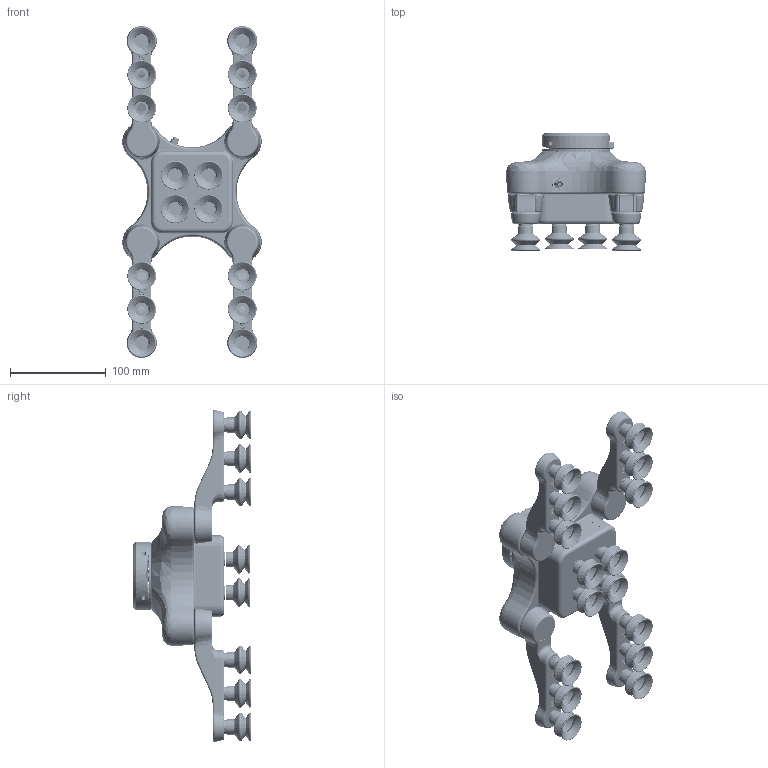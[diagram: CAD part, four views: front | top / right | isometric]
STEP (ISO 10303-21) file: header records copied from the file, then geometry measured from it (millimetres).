
FILE_DESCRIPTION (( 'STEP AP214' ), '1' );
FILE_NAME ('PR10 with movable arms_05.STEP', '2018-08-02T12:44:36', ( 'Lasse' ), ( '' ), 'SwSTEP 2.0', 'SolidWorks 2018', '' );
FILE_SCHEMA (( 'AUTOMOTIVE_DESIGN' ));
Length unit declared in the file: millimetre
Products named in the file (9): PR10 with movable arms_05; Base; Base unit sealing_08; Lid for base unit_11; M8 connector in Base Unit; Base unit_10_for 3Dmodel; Asm Quick Connector_9; Asm Arm_4_Part; Base suction cups_01
Assembly tree (11 placements, depth 3):
  PR10 with movable arms_05
    Base suction cups_01
    Asm Arm_4_Part  x4
    Asm Quick Connector_9
    Base
      Base unit_10_for 3Dmodel
      M8 connector in Base Unit
      Lid for base unit_11
      Base unit sealing_08
Bounding box: 145.5 x 122.4 x 346.41 mm (x, y, z)
Volume: 541942.8 mm3; surface area: 327501.1 mm2
Topology: 4 solids, 129 shells, 4515 faces, 11820 edges, 7271 vertices
Faces by surface type: cylinder 1478, bspline 1036, torus 670, plane 662, cone 553, sphere 116
Entity records: 266285 total; most frequent: CARTESIAN_POINT 185917, ORIENTED_EDGE 14971, DIRECTION 14013, EDGE_CURVE 7820, AXIS2_PLACEMENT_3D 5991, VERTEX_POINT 4807, CIRCLE 3744, EDGE_LOOP 3308
